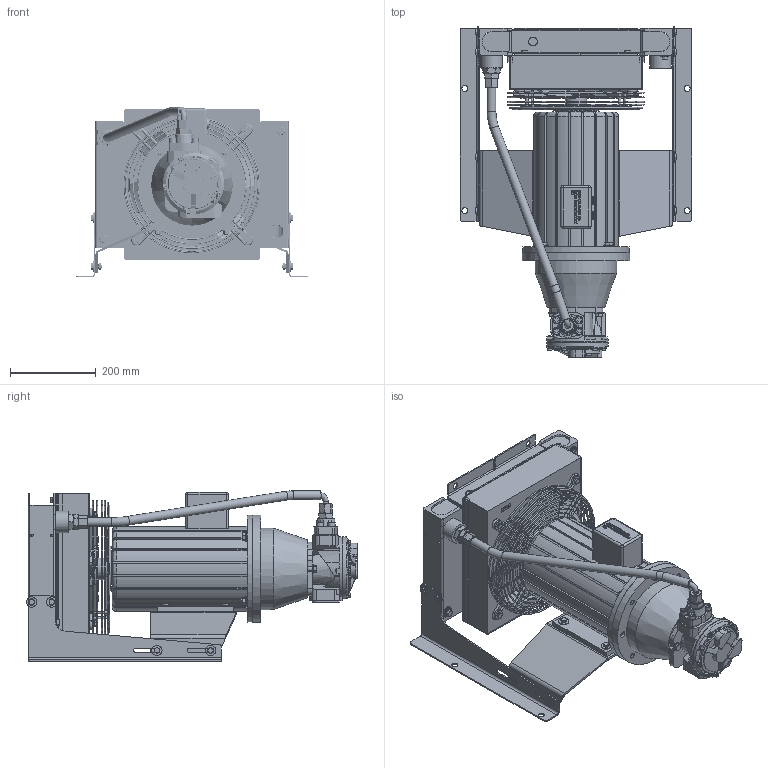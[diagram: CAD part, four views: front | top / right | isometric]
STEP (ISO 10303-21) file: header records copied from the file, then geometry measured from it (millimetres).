
FILE_DESCRIPTION( ( 'Unknown' ), '1' );
FILE_NAME( 'E:/du/intern/hoester/130906/1963.901.X084.stp', 'Unknown', ( 'CAD-SV' ), ( 'AKG-TTI' ), 'PSStep 14.0', 'SOLID EDGE ST4', ' ' );
FILE_SCHEMA( ( 'AUTOMOTIVE_DESIGN { 1 0 10303 214 1 1 1 1 }' ) );
Length unit declared in the file: millimetre
Products named in the file (66): 10000047218_000; 10000019381_000-oa0; 10000019381_000-oa1; 10000047176_000-oa2; 10000030176_000; 10000004722_000-oa3; 10000016411_000-oa4; 10000016411_000-oa5; 10000009656_000-oa6; 10000000738_000; 10000021632_000; 10000002996_000; 10000002995_000; 10000002997_000-oa7; 10000030175_000; 10000030169_000; 10000000915_000; 10000047246_000; 10000000664_000; 10000000811_000; Assem1; 10000001112_000; 10000001141_000; 10000001286_000; 10000001288_000; 10000001357_000; 10000001629_000; 10000001647_000; 10000001753_000; 10000003313_000; 10000001230_000; 10000000627_000; 10000004832_000; 10000005225_000; 10000060471_000; 10000060470_000; 10000001222_000; 10000001211_000; 10000001275_000; 10000001226_000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
Assembly tree (139 placements, depth 4):
  Assem1
    10000001112_000  x2
    10000001141_000  x4
    10000001286_000  x2
    10000001288_000  x4
    10000001357_000  x28
    10000001629_000
    10000001647_000
    10000001753_000
    10000003313_000  x2
    10000001230_000  x4
    10000000627_000  x4
    10000004832_000
    10000004832_000
    10000004832_000
    10000004832_000
    10000004832_000
    10000004832_000
    10000004832_000
    10000004832_000
    10000004832_000
    10000004832_000
    10000004832_000
    10000004832_000
    10000004832_000
    10000004832_000
    10000004832_000
    10000005225_000
    10000060471_000
    10000060470_000
    10000001222_000  x8
    10000001211_000
    10000001275_000  x12
    10000001226_000  x4
    10000005402_000
    10000060565_000
    10000005437_000
    10000001235_000  x4
    10000005435_000
    10000005435_000
    10000005435_000
    10000004548_000
    10000017111_000
    10000001514_000
    10000001539_000  x2
    10000001580_000  x2
    10000047246_000
      10000000664_000  x2
      10000000811_000  x2
      10000047218_000
        10000019381_000-oa0
        10000019381_000-oa1
        10000047176_000-oa2
      10000030176_000  x2
        10000004722_000-oa3
        10000016411_000-oa4
        10000016411_000-oa5
        10000009656_000-oa6
        10000000738_000
    10000030175_000
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Bounding box: 540 x 771.5 x 397.15 mm (x, y, z)
Volume: 22890637.6 mm3; surface area: 2791800.5 mm2
Topology: 136 solids, 138 shells, 3461 faces, 8519 edges, 5557 vertices
Faces by surface type: plane 2116, cylinder 651, cone 221, bspline 193, torus 150, extrusion 121, sphere 9
Full cylindrical faces by diameter (mm): 4 x8, 5 x2, 5.35 x2, 6 x28, 6.5 x1, 6.8 x32, 7 x4, 7.5 x1, 8 x20, 8.38 x2, 8.4 x32, 8.5 x4, 8.88 x1, 9.03 x1, 10 x14, 10.11 x4, 10.2 x8, 10.5 x12, 11 x6, 11.63 x20, 12 x8, 12.5 x2, 12.7 x6, 13 x4, 14 x10, 14.2 x2, 14.5 x4, 14.63 x2, 15 x6, 16 x4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
Entity records: 128471 total; most frequent: CARTESIAN_POINT 48573, ORIENTED_EDGE 12344, DIRECTION 9907, EDGE_CURVE 6172, VERTEX_POINT 4248, AXIS2_PLACEMENT_3D 3491, EDGE_LOOP 3394, VECTOR 2925
